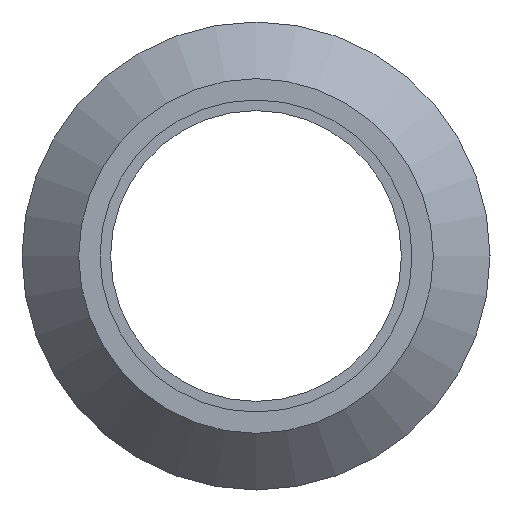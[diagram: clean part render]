
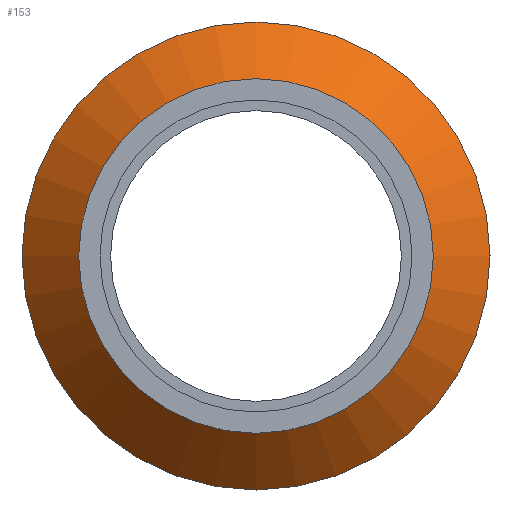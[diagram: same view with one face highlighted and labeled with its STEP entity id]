
A CAD part, left-side view. The second image highlights one B-rep face of the part: STEP entity #153.
In plain terms, the highlighted conical face has half-angle 45 degrees and reference radius 29 mm.
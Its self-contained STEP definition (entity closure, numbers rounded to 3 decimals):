
#32=FACE_BOUND($,#69,.T.);
#46=FACE_OUTER_BOUND($,#68,.T.);
#68=EDGE_LOOP($,(#133));
#69=EDGE_LOOP($,(#134));
#84=CIRCLE($,#179,25.);
#85=CIRCLE($,#181,33.);
#97=VERTEX_POINT($,#270);
#98=VERTEX_POINT($,#273);
#110=EDGE_CURVE($,#97,#97,#84,.T.);
#111=EDGE_CURVE($,#98,#98,#85,.T.);
#133=ORIENTED_EDGE($,*,*,#111,.F.);
#134=ORIENTED_EDGE($,*,*,#110,.T.);
#142=CONICAL_SURFACE($,#180,29.,45.);
#153=ADVANCED_FACE($,(#46,#32),#142,.T.);
#179=AXIS2_PLACEMENT_3D($,#271,#227,#228);
#180=AXIS2_PLACEMENT_3D($,#272,#229,#230);
#181=AXIS2_PLACEMENT_3D($,#274,#231,#232);
#227=DIRECTION('center_axis',(1.,0.,0.));
#228=DIRECTION('ref_axis',(0.,1.,0.));
#229=DIRECTION('center_axis',(1.,0.,0.));
#230=DIRECTION('ref_axis',(0.,1.,0.));
#231=DIRECTION('center_axis',(1.,0.,0.));
#232=DIRECTION('ref_axis',(0.,1.,0.));
#270=CARTESIAN_POINT('',(230.,25.,0.));
#271=CARTESIAN_POINT('Origin',(230.,0.,0.));
#272=CARTESIAN_POINT('Origin',(234.,0.,0.));
#273=CARTESIAN_POINT('',(238.,33.,0.));
#274=CARTESIAN_POINT('Origin',(238.,0.,0.));
